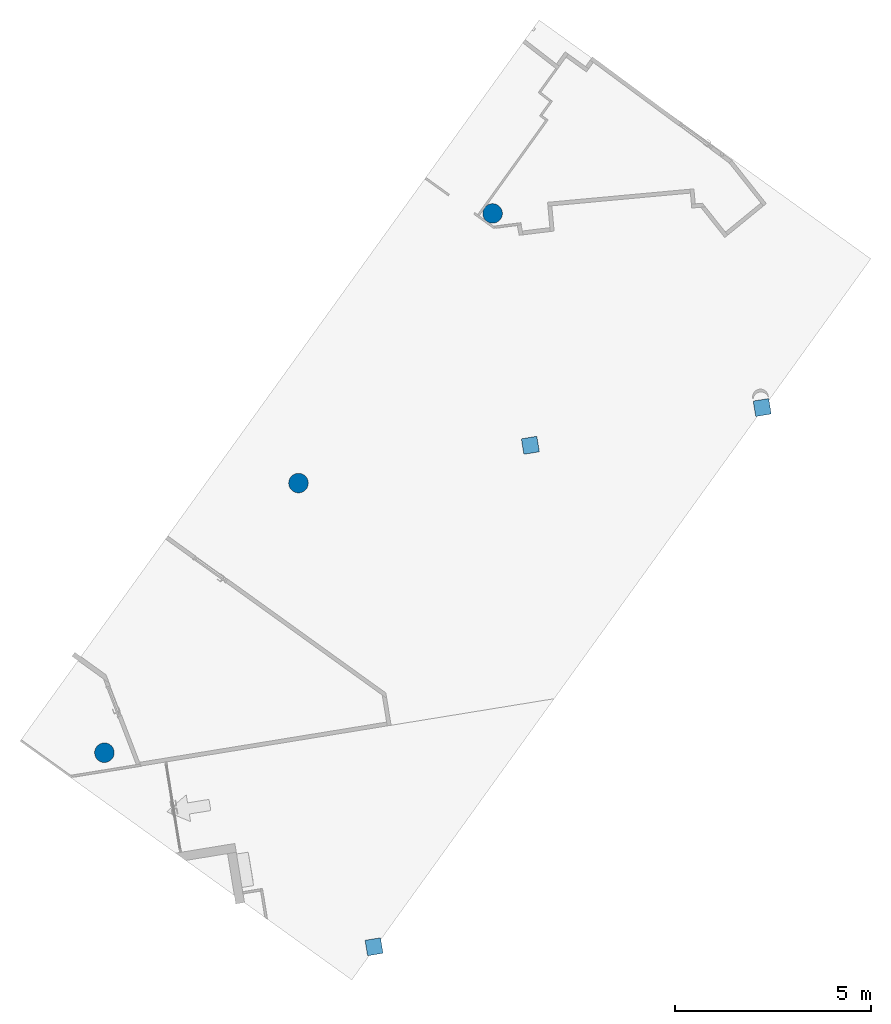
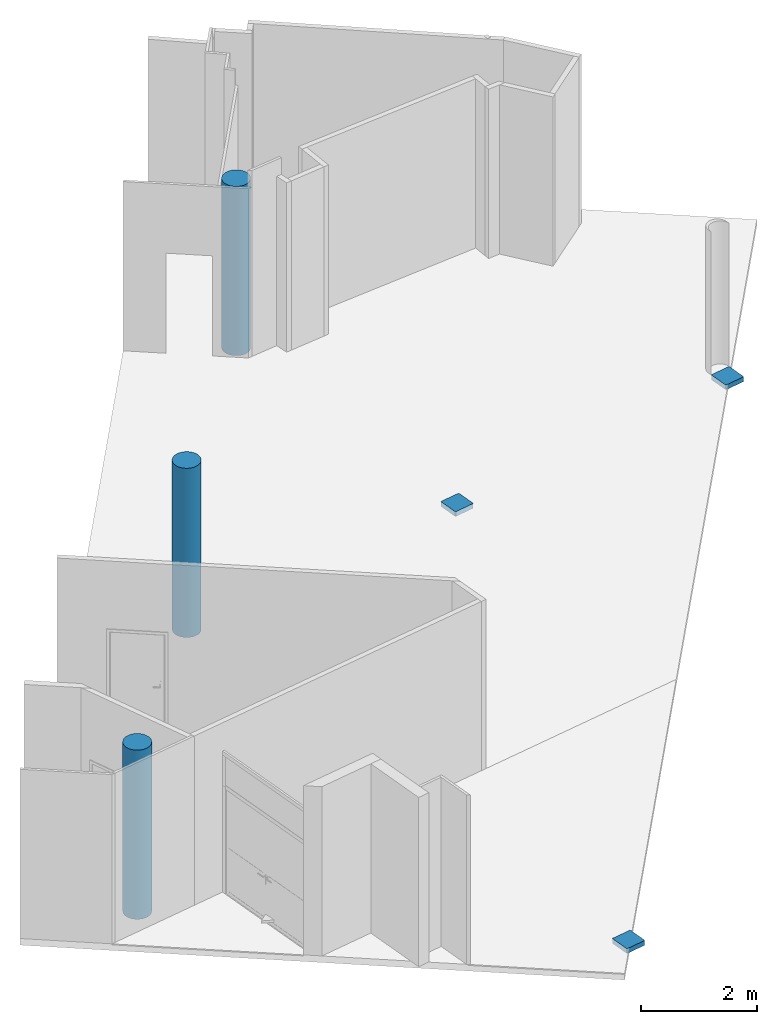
# One storey, part 1 of 10: 6 columns.
"""IFC2X3 building model written with IfcOpenShell, lengths in millimetres."""

from ifc_helpers import new_model, entity, si_unit, converted_unit, derived_unit, direction, frame, origin, origin_with_axes, origin_2d_with_axis, place, context, subcontext, project, spatial, polyline, circle, outline, extrude, source, transform, mapped, material, type_object, element, save


model = new_model("IFC2X3")

# Units and contexts
model_context = context("Model", 3, precision=0.01, world=origin(), true_north=direction((6.12323399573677e-17, 1.0)))
plan_context = context("Plan", 3, precision=1e-05, world=origin_with_axes())
body_context = subcontext(model_context, "Body", "Model", "MODEL_VIEW")
ifc_project = project(units=[converted_unit("PLANEANGLEUNIT", "DEGREE", entity("IfcPositiveLengthMeasure", 0.0174532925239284), si_unit("PLANEANGLEUNIT", "RADIAN"), dimensions=[0, 0, 0, 0, 0, 0, 0]), si_unit("AREAUNIT", "SQUARE_METRE"), si_unit("LENGTHUNIT", "METRE", prefix="MILLI"), si_unit("MASSUNIT", "GRAM", prefix="KILO"), si_unit("POWERUNIT", "WATT"), si_unit("PRESSUREUNIT", "PASCAL", prefix="KILO"), si_unit("FORCEUNIT", "NEWTON", prefix="KILO"), si_unit("ELECTRICVOLTAGEUNIT", "VOLT"), si_unit("ELECTRICCURRENTUNIT", "AMPERE"), si_unit("THERMODYNAMICTEMPERATUREUNIT", "DEGREE_CELSIUS"), si_unit("TIMEUNIT", "SECOND"), si_unit("VOLUMEUNIT", "CUBIC_METRE"), derived_unit("LINEARVELOCITYUNIT", [(si_unit("LENGTHUNIT", "METRE"), 1), (si_unit("TIMEUNIT", "SECOND"), -1)]), derived_unit("VOLUMETRICFLOWRATEUNIT", [(si_unit("VOLUMEUNIT", "CUBIC_METRE"), 1), (si_unit("TIMEUNIT", "SECOND"), -1)]), derived_unit("THERMALTRANSMITTANCEUNIT", [(si_unit("POWERUNIT", "WATT"), 1), (si_unit("THERMODYNAMICTEMPERATUREUNIT", "KELVIN"), -1), (si_unit("AREAUNIT", "SQUARE_METRE"), -1)]), derived_unit("SOUNDPRESSUREUNIT", [(si_unit("PRESSUREUNIT", "PASCAL"), 1)])], contexts=[model_context, plan_context])

# Site, building, storey
site_placement = place(None, frame((-305029.896016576, -232111.759730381, 0.0), z_axis=(0.0, 0.0, 1.0), x_axis=(-0.160806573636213, 0.986985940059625, 0.0)))
site = spatial("IfcSite", under=ifc_project, at=site_placement, Name="Default", CompositionType="ELEMENT")
building_placement = place(site_placement, frame((0.0, 0.0, 0.0), z_axis=(0.0, 0.0, 1.0), x_axis=(1.0, -2.77555756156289e-17, 0.0)))
building = spatial("IfcBuilding", under=site, at=building_placement, Name="br001-a-200-1-0001", CompositionType="ELEMENT")
storey_placement = place(building_placement, frame((0.0, 0.0, 55500.0), z_axis=(0.0, 0.0, 1.0), x_axis=(1.0, -2.77555756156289e-17, 0.0)))
storey = spatial("IfcBuildingStorey", under=building, at=storey_placement, Name="H02-Nivå F-3,5 m", CompositionType="ELEMENT", Elevation=55500.0)

# Columns
ifc_material = material(Name="_NSW Betong")
column_type_1 = type_object("IfcColumnType", Name="NSW Søyle - Betong rektangulær:400 x 400 mm", PredefinedType="COLUMN", material=ifc_material)
shared_shape_1 = source(origin(), body_context, "Body", "SweptSolid", [
    extrude(outline(polyline([(-7.07106781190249, -275.771644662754), (7.07106781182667, -275.771644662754), (275.771644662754, -7.07106781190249), (275.771644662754, 7.07106781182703), (7.07106781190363, 275.771644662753), (-7.07106781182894, 275.771644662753), (-275.771644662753, 7.07106781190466), (-275.771644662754, -7.07106781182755), (-7.07106781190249, -275.771644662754)])), frame((100.0, -100.0, 55400.0), z_axis=(0.0, 0.0, 1.0), x_axis=(0.707106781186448, 0.707106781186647, 0.0)), (0.0, 0.0, 1.0), 100.000000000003),
])
for number, where, z_axis, x_axis, name in (
    (1, (1184578.59858442, -692666.37836702, -55500.0), (0.0, 0.0, 1.0), (1.0, -2.77555756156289e-17, 0.0), "NSW Søyle - Betong rektangulær:400 x 400 mm"),
    (2, (1184578.59858442, -686666.37836702, -55500.0), (0.0, 0.0, 1.0), (1.0, -2.77555756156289e-17, 0.0), "NSW Søyle - Betong rektangulær:400 x 400 mm"),
    (3, (1172578.59858442, -680666.37836702, -55500.0), (0.0, 0.0, 1.0), (1.0, -2.77555756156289e-17, 0.0), "NSW Søyle - Betong rektangulær:400 x 400 mm"),
):
    element("IfcColumn", number, at=place(storey_placement, frame(where, z_axis=z_axis, x_axis=x_axis)), inside=storey, type_object=column_type_1, material=ifc_material, Name=name, ObjectType="NSW Søyle - Betong rektangulær:400 x 400 mm", context=body_context, shape_type="MappedRepresentation", body=[
        mapped(shared_shape_1, transform((0.0, 0.0, 0.0), scale=1.0)),
    ])
column_type_2 = type_object("IfcColumnType", Name="NSW Søyle - Betong rund:ø500 mm", PredefinedType="COLUMN", material=ifc_material)
shared_shape_2 = source(origin(), body_context, "Body", "SweptSolid", [
    extrude(circle(Radius=249.999999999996, at=origin_2d_with_axis()), frame((1178678.59858442, -674766.378367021, 55500.0)), (0.0, 0.0, 1.0), 3550.00000000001),
])
column_1_placement = place(storey_placement, frame((0.0, 0.0, -55500.0), z_axis=(0.0, 0.0, 1.0), x_axis=(1.0, -2.77555756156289e-17, 0.0)))
element("IfcColumn", 4, at=column_1_placement, inside=storey, type_object=column_type_2, material=ifc_material, Name="NSW Søyle - Betong rund:ø500 mm", ObjectType="NSW Søyle - Betong rund:ø500 mm", context=body_context, shape_type="MappedRepresentation", body=[
    mapped(shared_shape_2, transform((0.0, 0.0, 0.0), scale=1.0)),
])
column_type_3 = type_object("IfcColumnType", Name="NSW Søyle - Betong rund:ø500 mm", PredefinedType="COLUMN", material=ifc_material)
shared_shape_3 = source(origin(), body_context, "Body", "SweptSolid", [
    extrude(circle(Radius=249.999999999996, at=origin_2d_with_axis()), frame((1184678.59858442, -680766.37836702, 55500.0)), (0.0, 0.0, 1.0), 3550.00000000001),
])
column_2_placement = place(storey_placement, frame((0.0, 0.0, -55500.0), z_axis=(0.0, 0.0, 1.0), x_axis=(1.0, -2.77555756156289e-17, 0.0)))
element("IfcColumn", 5, at=column_2_placement, inside=storey, type_object=column_type_3, material=ifc_material, Name="NSW Søyle - Betong rund:ø500 mm", ObjectType="NSW Søyle - Betong rund:ø500 mm", context=body_context, shape_type="MappedRepresentation", body=[
    mapped(shared_shape_3, transform((0.0, 0.0, 0.0), scale=1.0)),
])
column_type_4 = type_object("IfcColumnType", Name="NSW Søyle - Betong rund:ø500 mm", PredefinedType="COLUMN", material=ifc_material)
shared_shape_4 = source(origin(), body_context, "Body", "SweptSolid", [
    extrude(circle(Radius=249.999999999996, at=origin_2d_with_axis()), frame((1190678.59858442, -686766.37836702, 55500.0)), (0.0, 0.0, 1.0), 3550.00000000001),
])
column_3_placement = place(storey_placement, frame((0.0, 0.0, -55500.0), z_axis=(0.0, 0.0, 1.0), x_axis=(1.0, -2.77555756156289e-17, 0.0)))
element("IfcColumn", 6, at=column_3_placement, inside=storey, type_object=column_type_4, material=ifc_material, Name="NSW Søyle - Betong rund:ø500 mm", ObjectType="NSW Søyle - Betong rund:ø500 mm", context=body_context, shape_type="MappedRepresentation", body=[
    mapped(shared_shape_4, transform((0.0, 0.0, 0.0), scale=1.0)),
])

save(model, "model.ifc")
